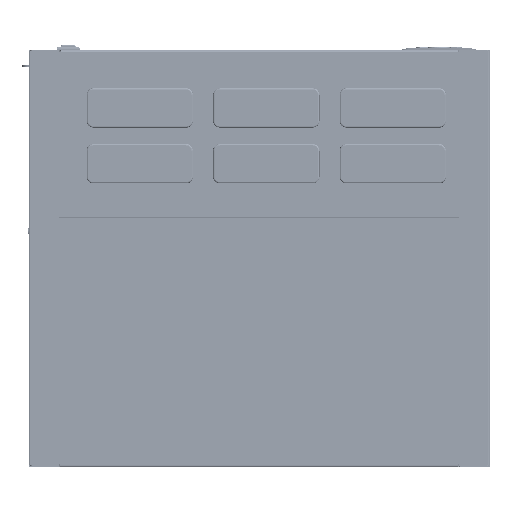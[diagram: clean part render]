
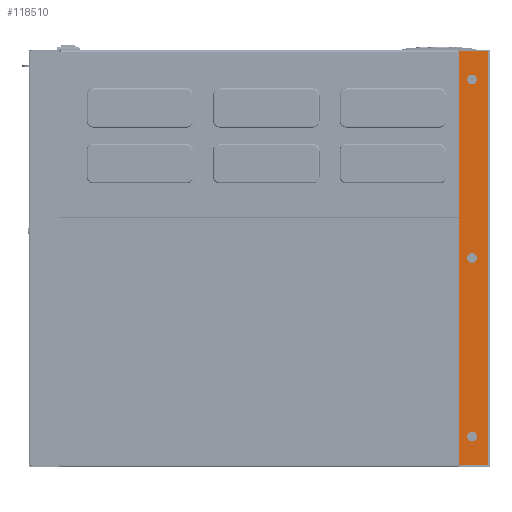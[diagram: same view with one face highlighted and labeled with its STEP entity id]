
A CAD part, front view. The second image highlights one B-rep face of the part: STEP entity #118510.
In plain terms, the highlighted planar face has unit normal (0, -1, 0) as drawn and (-1, 0, 0) by its records, which use the part's own axes.
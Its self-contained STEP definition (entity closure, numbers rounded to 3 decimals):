
#118457 = VERTEX_POINT('',#118458);
#118458 = CARTESIAN_POINT('',(-255.75,0.5,-268.5));
#118492 = VERTEX_POINT('',#118493);
#118493 = CARTESIAN_POINT('',(-255.75,0.5,289.));
#118500 = EDGE_CURVE('',#118492,#118457,#118501,.T.);
#118501 = LINE('',#118502,#118503);
#118502 = CARTESIAN_POINT('',(-255.75,0.5,289.));
#118503 = VECTOR('',#118504,1.);
#118504 = DIRECTION('',(0.,0.,-1.));
#118510 = ADVANCED_FACE('',(#118511,#118536,#118556,#118576),#118596,.F.
  );
#118511 = FACE_BOUND('',#118512,.F.);
#118512 = EDGE_LOOP('',(#118513,#118521,#118529,#118535));
#118513 = ORIENTED_EDGE('',*,*,#118514,.T.);
#118514 = EDGE_CURVE('',#118457,#118515,#118517,.T.);
#118515 = VERTEX_POINT('',#118516);
#118516 = CARTESIAN_POINT('',(-255.75,39.5,-268.5));
#118517 = LINE('',#118518,#118519);
#118518 = CARTESIAN_POINT('',(-255.75,0.5,-268.5));
#118519 = VECTOR('',#118520,1.);
#118520 = DIRECTION('',(0.,1.,0.));
#118521 = ORIENTED_EDGE('',*,*,#118522,.T.);
#118522 = EDGE_CURVE('',#118515,#118523,#118525,.T.);
#118523 = VERTEX_POINT('',#118524);
#118524 = CARTESIAN_POINT('',(-255.75,39.5,289.));
#118525 = LINE('',#118526,#118527);
#118526 = CARTESIAN_POINT('',(-255.75,39.5,-268.5));
#118527 = VECTOR('',#118528,1.);
#118528 = DIRECTION('',(0.,0.,1.));
#118529 = ORIENTED_EDGE('',*,*,#118530,.T.);
#118530 = EDGE_CURVE('',#118523,#118492,#118531,.T.);
#118531 = LINE('',#118532,#118533);
#118532 = CARTESIAN_POINT('',(-255.75,39.5,289.));
#118533 = VECTOR('',#118534,1.);
#118534 = DIRECTION('',(0.,-1.,0.));
#118535 = ORIENTED_EDGE('',*,*,#118500,.T.);
#118536 = FACE_BOUND('',#118537,.F.);
#118537 = EDGE_LOOP('',(#118538,#118549));
#118538 = ORIENTED_EDGE('',*,*,#118539,.T.);
#118539 = EDGE_CURVE('',#118540,#118542,#118544,.T.);
#118540 = VERTEX_POINT('',#118541);
#118541 = CARTESIAN_POINT('',(-255.75,28.5,250.25));
#118542 = VERTEX_POINT('',#118543);
#118543 = CARTESIAN_POINT('',(-255.75,15.5,250.25));
#118544 = CIRCLE('',#118545,6.5);
#118545 = AXIS2_PLACEMENT_3D('',#118546,#118547,#118548);
#118546 = CARTESIAN_POINT('',(-255.75,22.,250.25));
#118547 = DIRECTION('',(-1.,0.,0.));
#118548 = DIRECTION('',(0.,1.,0.));
#118549 = ORIENTED_EDGE('',*,*,#118550,.T.);
#118550 = EDGE_CURVE('',#118542,#118540,#118551,.T.);
#118551 = CIRCLE('',#118552,6.5);
#118552 = AXIS2_PLACEMENT_3D('',#118553,#118554,#118555);
#118553 = CARTESIAN_POINT('',(-255.75,22.,250.25));
#118554 = DIRECTION('',(-1.,0.,0.));
#118555 = DIRECTION('',(0.,-1.,0.));
#118556 = FACE_BOUND('',#118557,.F.);
#118557 = EDGE_LOOP('',(#118558,#118569));
#118558 = ORIENTED_EDGE('',*,*,#118559,.T.);
#118559 = EDGE_CURVE('',#118560,#118562,#118564,.T.);
#118560 = VERTEX_POINT('',#118561);
#118561 = CARTESIAN_POINT('',(-255.75,28.5,10.25));
#118562 = VERTEX_POINT('',#118563);
#118563 = CARTESIAN_POINT('',(-255.75,15.5,10.25));
#118564 = CIRCLE('',#118565,6.5);
#118565 = AXIS2_PLACEMENT_3D('',#118566,#118567,#118568);
#118566 = CARTESIAN_POINT('',(-255.75,22.,10.25));
#118567 = DIRECTION('',(-1.,0.,0.));
#118568 = DIRECTION('',(0.,1.,0.));
#118569 = ORIENTED_EDGE('',*,*,#118570,.T.);
#118570 = EDGE_CURVE('',#118562,#118560,#118571,.T.);
#118571 = CIRCLE('',#118572,6.5);
#118572 = AXIS2_PLACEMENT_3D('',#118573,#118574,#118575);
#118573 = CARTESIAN_POINT('',(-255.75,22.,10.25));
#118574 = DIRECTION('',(-1.,0.,0.));
#118575 = DIRECTION('',(0.,-1.,0.));
#118576 = FACE_BOUND('',#118577,.F.);
#118577 = EDGE_LOOP('',(#118578,#118589));
#118578 = ORIENTED_EDGE('',*,*,#118579,.T.);
#118579 = EDGE_CURVE('',#118580,#118582,#118584,.T.);
#118580 = VERTEX_POINT('',#118581);
#118581 = CARTESIAN_POINT('',(-255.75,28.5,-229.75));
#118582 = VERTEX_POINT('',#118583);
#118583 = CARTESIAN_POINT('',(-255.75,15.5,-229.75));
#118584 = CIRCLE('',#118585,6.5);
#118585 = AXIS2_PLACEMENT_3D('',#118586,#118587,#118588);
#118586 = CARTESIAN_POINT('',(-255.75,22.,-229.75));
#118587 = DIRECTION('',(-1.,0.,0.));
#118588 = DIRECTION('',(0.,1.,0.));
#118589 = ORIENTED_EDGE('',*,*,#118590,.T.);
#118590 = EDGE_CURVE('',#118582,#118580,#118591,.T.);
#118591 = CIRCLE('',#118592,6.5);
#118592 = AXIS2_PLACEMENT_3D('',#118593,#118594,#118595);
#118593 = CARTESIAN_POINT('',(-255.75,22.,-229.75));
#118594 = DIRECTION('',(-1.,0.,0.));
#118595 = DIRECTION('',(0.,-1.,0.));
#118596 = PLANE('',#118597);
#118597 = AXIS2_PLACEMENT_3D('',#118598,#118599,#118600);
#118598 = CARTESIAN_POINT('',(-255.75,-2.,-268.5));
#118599 = DIRECTION('',(1.,0.,0.));
#118600 = DIRECTION('',(0.,0.,-1.));
